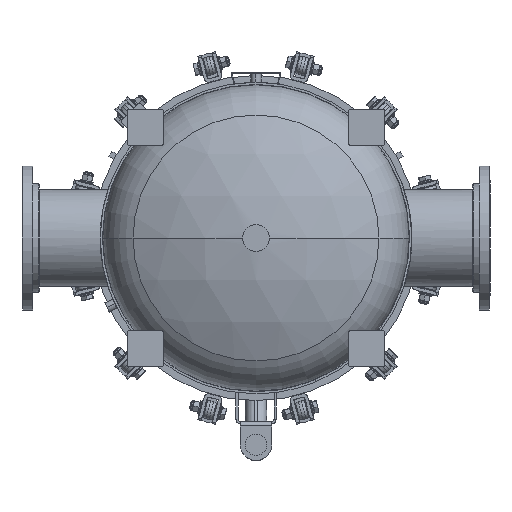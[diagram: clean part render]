
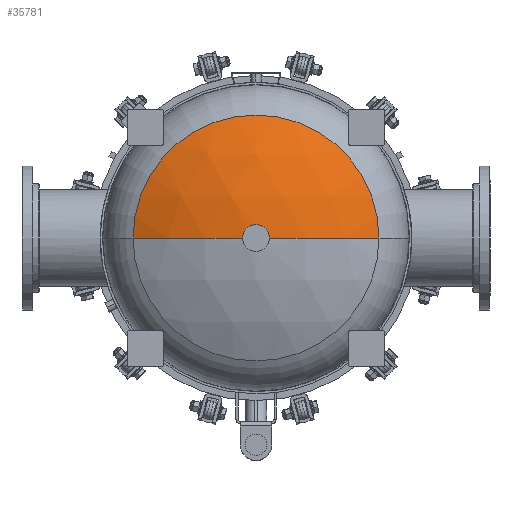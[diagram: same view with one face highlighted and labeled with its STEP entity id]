
A CAD part, front view. The second image highlights one B-rep face of the part: STEP entity #35781.
In plain terms, the highlighted spherical face has radius 775.989 mm.
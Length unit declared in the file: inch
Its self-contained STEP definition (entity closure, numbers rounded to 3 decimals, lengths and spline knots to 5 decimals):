
#3051 = CIRCLE ( 'NONE', #11743, 30.55075 ) ;
#9327 = VERTEX_POINT ( 'NONE', #20963 ) ;
#10542 = DIRECTION ( 'NONE',  ( 0., 0., -1. ) ) ;
#11095 = VERTEX_POINT ( 'NONE', #44278 ) ;
#11616 = ORIENTED_EDGE ( 'NONE', *, *, #50134, .F. ) ;
#11743 = AXIS2_PLACEMENT_3D ( 'NONE', #23446, #41289, #24978 ) ;
#15565 = CARTESIAN_POINT ( 'NONE',  ( 1.5, -39.68099, 0. ) ) ;
#18332 = EDGE_CURVE ( 'NONE', #39267, #73162, #32572, .T. ) ;
#20963 = CARTESIAN_POINT ( 'NONE',  ( -13.66393, -36.4919, 0. ) ) ;
#23446 = CARTESIAN_POINT ( 'NONE',  ( 0., -9.16709, 0. ) ) ;
#24978 = DIRECTION ( 'NONE',  ( 1., 0., 0. ) ) ;
#25673 = CARTESIAN_POINT ( 'NONE',  ( 0., -39.68099, 0. ) ) ;
#26494 = EDGE_CURVE ( 'NONE', #11095, #9327, #41279, .T. ) ;
#26827 = DIRECTION ( 'NONE',  ( 0., 0., 1. ) ) ;
#28044 = CIRCLE ( 'NONE', #45419, 1.5 ) ;
#28856 = AXIS2_PLACEMENT_3D ( 'NONE', #38633, #61605, #43680 ) ;
#29063 = CARTESIAN_POINT ( 'NONE',  ( 0., -39.68099, 0. ) ) ;
#30213 = DIRECTION ( 'NONE',  ( 0., -1., 0. ) ) ;
#30853 = EDGE_CURVE ( 'NONE', #75288, #39267, #28044, .T. ) ;
#32572 = CIRCLE ( 'NONE', #46263, 1.5 ) ;
#34258 = DIRECTION ( 'NONE',  ( -1., 0., 0. ) ) ;
#34392 = EDGE_CURVE ( 'NONE', #9327, #73162, #3051, .T. ) ;
#34950 = EDGE_LOOP ( 'NONE', ( #11616, #43420, #38296, #52243, #76319 ) ) ;
#35456 = CARTESIAN_POINT ( 'NONE',  ( 0., -9.16709, 0. ) ) ;
#35781 = ADVANCED_FACE ( 'NONE', ( #45561 ), #40072, .T. ) ;
#36854 = CARTESIAN_POINT ( 'NONE',  ( 0., -39.68099, 1.5 ) ) ;
#38296 = ORIENTED_EDGE ( 'NONE', *, *, #34392, .T. ) ;
#38633 = CARTESIAN_POINT ( 'NONE',  ( 0., -36.4919, 0. ) ) ;
#39267 = VERTEX_POINT ( 'NONE', #36854 ) ;
#40072 = SPHERICAL_SURFACE ( 'NONE', #42935, 30.55075 ) ;
#41279 = CIRCLE ( 'NONE', #28856, 13.66393 ) ;
#41289 = DIRECTION ( 'NONE',  ( 0., 0., 1. ) ) ;
#42935 = AXIS2_PLACEMENT_3D ( 'NONE', #51398, #10542, #34258 ) ;
#43420 = ORIENTED_EDGE ( 'NONE', *, *, #26494, .T. ) ;
#43680 = DIRECTION ( 'NONE',  ( 1., 0., 0. ) ) ;
#44278 = CARTESIAN_POINT ( 'NONE',  ( 13.66393, -36.4919, 0. ) ) ;
#45419 = AXIS2_PLACEMENT_3D ( 'NONE', #25673, #56375, #26827 ) ;
#45561 = FACE_OUTER_BOUND ( 'NONE', #34950, .T. ) ;
#46263 = AXIS2_PLACEMENT_3D ( 'NONE', #29063, #30213, #52804 ) ;
#50134 = EDGE_CURVE ( 'NONE', #11095, #75288, #67020, .T. ) ;
#51398 = CARTESIAN_POINT ( 'NONE',  ( 0., -9.16709, 0. ) ) ;
#52243 = ORIENTED_EDGE ( 'NONE', *, *, #18332, .F. ) ;
#52804 = DIRECTION ( 'NONE',  ( 0., 0., 1. ) ) ;
#54239 = CARTESIAN_POINT ( 'NONE',  ( -1.5, -39.68099, 0. ) ) ;
#56375 = DIRECTION ( 'NONE',  ( 0., -1., 0. ) ) ;
#59188 = DIRECTION ( 'NONE',  ( 0., 0., -1. ) ) ;
#61605 = DIRECTION ( 'NONE',  ( 0., -1., 0. ) ) ;
#65395 = DIRECTION ( 'NONE',  ( -1., 0., 0. ) ) ;
#67020 = CIRCLE ( 'NONE', #73283, 30.55075 ) ;
#73162 = VERTEX_POINT ( 'NONE', #54239 ) ;
#73283 = AXIS2_PLACEMENT_3D ( 'NONE', #35456, #59188, #65395 ) ;
#75288 = VERTEX_POINT ( 'NONE', #15565 ) ;
#76319 = ORIENTED_EDGE ( 'NONE', *, *, #30853, .F. ) ;
